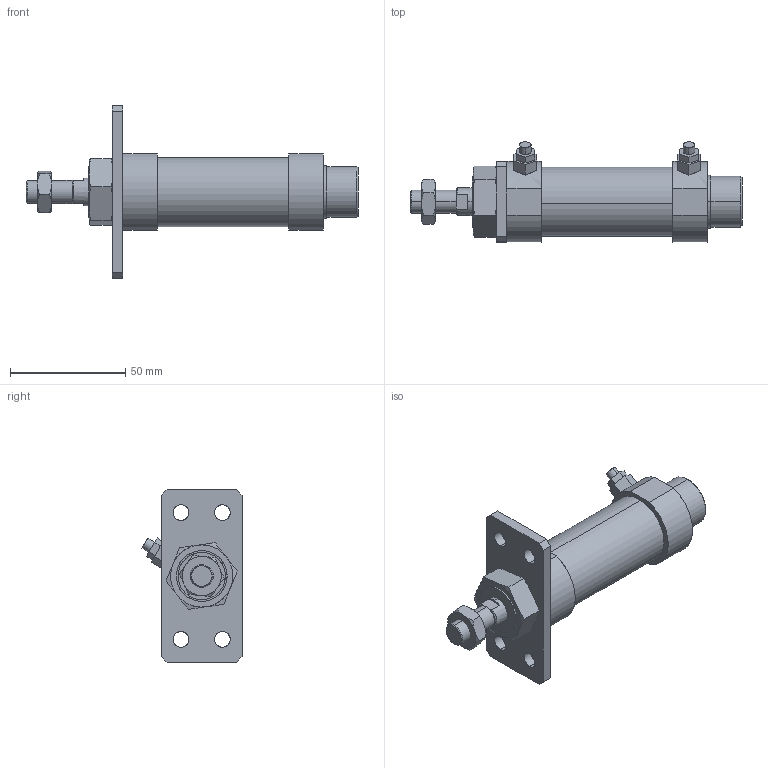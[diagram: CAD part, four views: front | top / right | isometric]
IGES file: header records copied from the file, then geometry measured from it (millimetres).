
Start section: SolidWorks IGES file using analytic representation for surfaces
Global section: file name: C:\Users\Toshiba\Desktop\JG2-25-25-A.IGS; native system: SolidWorks 2014; preprocessor: SolidWorks 2014; author: Toshiba; date: 160419.084709; units: millimetre
Bounding box: 144 x 43.43 x 75 mm (x, y, z)
Surface area: 26879.7 mm2 (no closed solid volume)
Topology: 0 solids, 0 shells, 157 faces, 2596 edges, 2592 vertices
Faces by surface type: bspline 103, revolution 54
